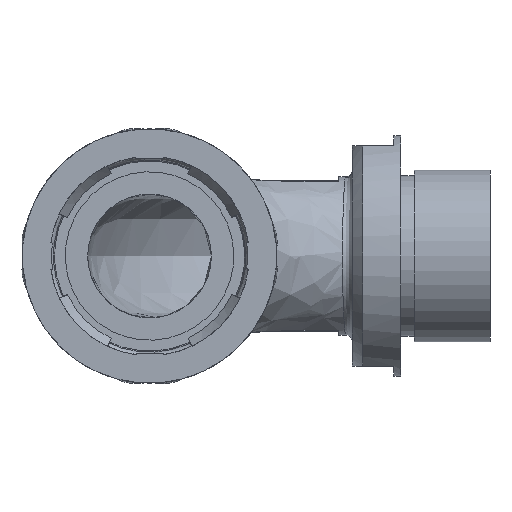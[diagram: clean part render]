
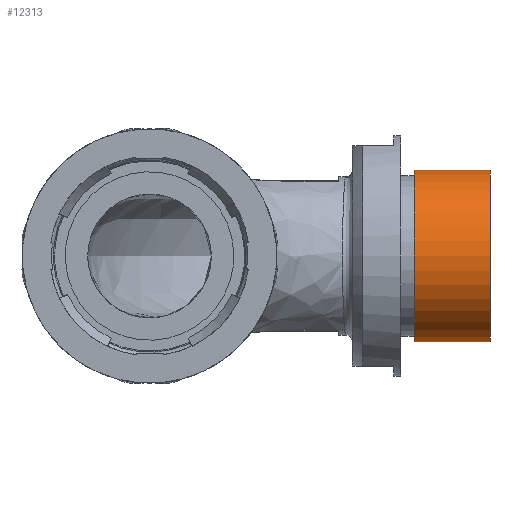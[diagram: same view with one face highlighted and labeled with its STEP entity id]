
A CAD part, front view. The second image highlights one B-rep face of the part: STEP entity #12313.
In plain terms, the highlighted cylindrical face has radius 12.5 mm (diameter 25 mm), a partial arc.
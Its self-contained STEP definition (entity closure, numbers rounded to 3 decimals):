
#83 = DIRECTION ( 'NONE',  ( 1., 0., 0. ) ) ;
#120 = CARTESIAN_POINT ( 'NONE',  ( 38.5, 34.5, 0. ) ) ;
#1119 = DIRECTION ( 'NONE',  ( 0., 0., -1. ) ) ;
#2475 = AXIS2_PLACEMENT_3D ( 'NONE', #2968, #83, #11539 ) ;
#2521 = CARTESIAN_POINT ( 'NONE',  ( 36.5, 34.5, -12.5 ) ) ;
#2626 = EDGE_CURVE ( 'NONE', #9165, #8016, #5177, .T. ) ;
#2920 = ORIENTED_EDGE ( 'NONE', *, *, #2626, .T. ) ;
#2968 = CARTESIAN_POINT ( 'NONE',  ( 36.5, 34.5, 0. ) ) ;
#3386 = CARTESIAN_POINT ( 'NONE',  ( 36.5, 34.5, 12.5 ) ) ;
#3448 = CARTESIAN_POINT ( 'NONE',  ( 49.5, 34.5, 12.5 ) ) ;
#3478 = DIRECTION ( 'NONE',  ( 1., 0., 0. ) ) ;
#3530 = VECTOR ( 'NONE', #9194, 1000. ) ;
#4566 = EDGE_LOOP ( 'NONE', ( #10170, #8699, #2920, #10474 ) ) ;
#4824 = DIRECTION ( 'NONE',  ( -1., 0., 0. ) ) ;
#4875 = EDGE_CURVE ( 'NONE', #7258, #8016, #6045, .T. ) ;
#5177 = LINE ( 'NONE', #2521, #10728 ) ;
#6045 = CIRCLE ( 'NONE', #7856, 12.5 ) ;
#7258 = VERTEX_POINT ( 'NONE', #3448 ) ;
#7768 = VERTEX_POINT ( 'NONE', #9181 ) ;
#7856 = AXIS2_PLACEMENT_3D ( 'NONE', #9715, #11396, #1119 ) ;
#8016 = VERTEX_POINT ( 'NONE', #11887 ) ;
#8435 = CYLINDRICAL_SURFACE ( 'NONE', #2475, 12.5 ) ;
#8691 = EDGE_CURVE ( 'NONE', #7768, #7258, #9828, .T. ) ;
#8699 = ORIENTED_EDGE ( 'NONE', *, *, #11056, .F. ) ;
#8969 = CARTESIAN_POINT ( 'NONE',  ( 38.5, 34.5, -12.5 ) ) ;
#9165 = VERTEX_POINT ( 'NONE', #8969 ) ;
#9181 = CARTESIAN_POINT ( 'NONE',  ( 38.5, 34.5, 12.5 ) ) ;
#9194 = DIRECTION ( 'NONE',  ( 1., 0., 0. ) ) ;
#9573 = DIRECTION ( 'NONE',  ( 0., 0., -1. ) ) ;
#9715 = CARTESIAN_POINT ( 'NONE',  ( 49.5, 34.5, 0. ) ) ;
#9828 = LINE ( 'NONE', #3386, #3530 ) ;
#10170 = ORIENTED_EDGE ( 'NONE', *, *, #8691, .F. ) ;
#10474 = ORIENTED_EDGE ( 'NONE', *, *, #4875, .F. ) ;
#10728 = VECTOR ( 'NONE', #3478, 1000. ) ;
#10989 = CIRCLE ( 'NONE', #11588, 12.5 ) ;
#11056 = EDGE_CURVE ( 'NONE', #9165, #7768, #10989, .T. ) ;
#11396 = DIRECTION ( 'NONE',  ( 1., 0., 0. ) ) ;
#11539 = DIRECTION ( 'NONE',  ( 0., 0., -1. ) ) ;
#11588 = AXIS2_PLACEMENT_3D ( 'NONE', #120, #4824, #9573 ) ;
#11887 = CARTESIAN_POINT ( 'NONE',  ( 49.5, 34.5, -12.5 ) ) ;
#12304 = FACE_OUTER_BOUND ( 'NONE', #4566, .T. ) ;
#12313 = ADVANCED_FACE ( 'NONE', ( #12304 ), #8435, .T. ) ;
